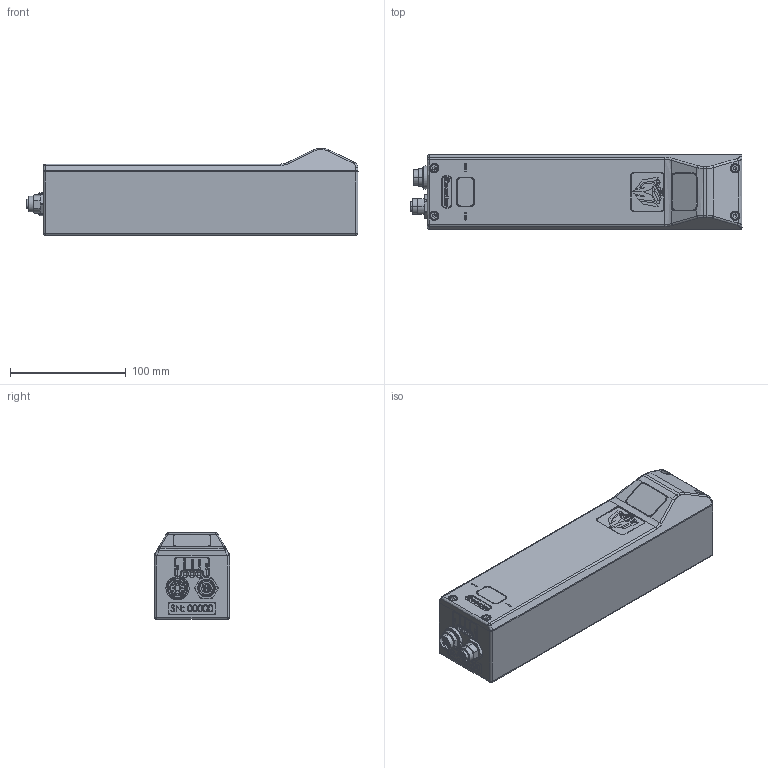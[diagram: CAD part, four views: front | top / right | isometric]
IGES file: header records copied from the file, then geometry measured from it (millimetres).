
Start section: SolidWorks IGES file using analytic representation for surfaces
Global section: file name: C:\_LMI\Sensors\dev\RD\Gocator2\Mechanical\3068X_MKT_SENSOR_Gocator_20X0\30686-1.7_MKT_SENSOR_Gocator2050.IGS; native system: SolidWorks 2009; preprocessor: SolidWorks 2009; author: Joep; date: 100706.144110; units: millimetre
Bounding box: 287 x 65 x 75 mm (x, y, z)
Surface area: 128256.4 mm2 (no closed solid volume)
Topology: 0 solids, 0 shells, 1357 faces, 19313 edges, 22447 vertices
Faces by surface type: bspline 885, revolution 472
